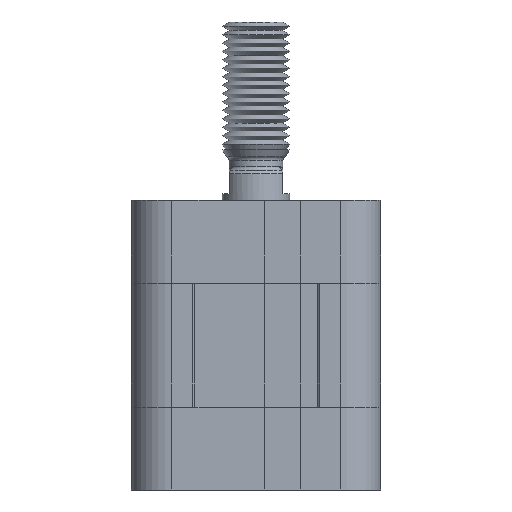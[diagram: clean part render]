
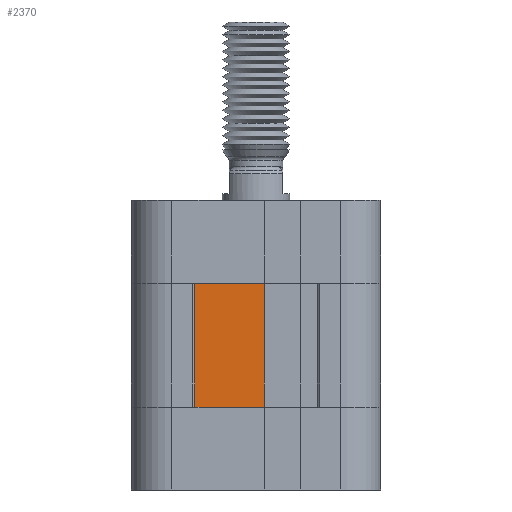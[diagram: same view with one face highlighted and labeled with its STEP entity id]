
A CAD part, front view. The second image highlights one B-rep face of the part: STEP entity #2370.
In plain terms, the highlighted planar face has unit normal (0, -1, 0).
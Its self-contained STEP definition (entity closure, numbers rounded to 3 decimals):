
#898 = VERTEX_POINT ( 'NONE', #7170 ) ;
#900 = EDGE_CURVE ( 'NONE', #898, #901, #7169, .T. ) ;
#901 = VERTEX_POINT ( 'NONE', #7164 ) ;
#2213 = VERTEX_POINT ( 'NONE', #11723 ) ;
#2217 = EDGE_CURVE ( 'NONE', #2219, #2213, #11778, .T. ) ;
#2219 = VERTEX_POINT ( 'NONE', #11774 ) ;
#2302 = ORIENTED_EDGE ( 'NONE', *, *, #900, .F. ) ;
#2305 = ORIENTED_EDGE ( 'NONE', *, *, #2366, .T. ) ;
#2366 = EDGE_CURVE ( 'NONE', #898, #2219, #12161, .T. ) ;
#2370 = ADVANCED_FACE ( 'NONE', ( #12154 ), #12148, .F. ) ;
#2371 = EDGE_LOOP ( 'NONE', ( #2374, #2376, #2302, #2305 ) ) ;
#2374 = ORIENTED_EDGE ( 'NONE', *, *, #2217, .T. ) ;
#2376 = ORIENTED_EDGE ( 'NONE', *, *, #2377, .F. ) ;
#2377 = EDGE_CURVE ( 'NONE', #901, #2213, #12141, .T. ) ;
#7164 = CARTESIAN_POINT ( 'NONE',  ( 9.1, -18.1, 18.4 ) ) ;
#7165 = DIRECTION ( 'NONE',  ( 1., 0., 0. ) ) ;
#7166 = VECTOR ( 'NONE', #7165, 1000. ) ;
#7168 = CARTESIAN_POINT ( 'NONE',  ( -1.25, -18.1, 18.4 ) ) ;
#7169 = LINE ( 'NONE', #7168, #7166 ) ;
#7170 = CARTESIAN_POINT ( 'NONE',  ( -1.25, -18.1, 18.4 ) ) ;
#11723 = CARTESIAN_POINT ( 'NONE',  ( 9.1, -18.1, 0. ) ) ;
#11774 = CARTESIAN_POINT ( 'NONE',  ( -1.25, -18.1, 0. ) ) ;
#11775 = DIRECTION ( 'NONE',  ( 1., 0., 0. ) ) ;
#11776 = VECTOR ( 'NONE', #11775, 1000. ) ;
#11777 = CARTESIAN_POINT ( 'NONE',  ( -1.25, -18.1, 0. ) ) ;
#11778 = LINE ( 'NONE', #11777, #11776 ) ;
#12141 = LINE ( 'NONE', #12255, #12253 ) ;
#12142 = DIRECTION ( 'NONE',  ( -1., 0., 0. ) ) ;
#12143 = DIRECTION ( 'NONE',  ( 0., 1., 0. ) ) ;
#12144 = CARTESIAN_POINT ( 'NONE',  ( -1.25, -18.1, 18.4 ) ) ;
#12146 = AXIS2_PLACEMENT_3D ( 'NONE', #12144, #12143, #12142 ) ;
#12148 = PLANE ( 'NONE',  #12146 ) ;
#12154 = FACE_OUTER_BOUND ( 'NONE', #2371, .T. ) ;
#12155 = DIRECTION ( 'NONE',  ( 0., 0., -1. ) ) ;
#12156 = VECTOR ( 'NONE', #12155, 1000. ) ;
#12157 = CARTESIAN_POINT ( 'NONE',  ( -1.25, -18.1, 18.4 ) ) ;
#12161 = LINE ( 'NONE', #12157, #12156 ) ;
#12252 = DIRECTION ( 'NONE',  ( 0., 0., -1. ) ) ;
#12253 = VECTOR ( 'NONE', #12252, 1000. ) ;
#12255 = CARTESIAN_POINT ( 'NONE',  ( 9.1, -18.1, 18.4 ) ) ;
